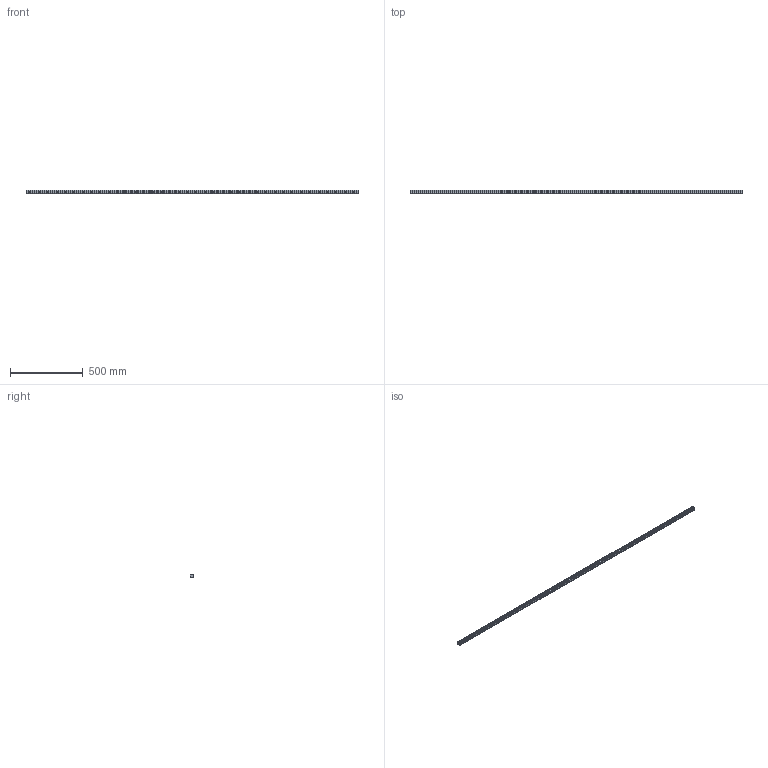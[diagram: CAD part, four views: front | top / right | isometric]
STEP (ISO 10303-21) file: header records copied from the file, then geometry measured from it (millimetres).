
FILE_DESCRIPTION (( 'STEP AP203' ), '1' );
FILE_NAME ('L1018.25R-2280.step', '2023-08-06T10:41:21', ( '' ), ( '' ), 'SwSTEP 2.0', 'SolidWorks 2019', '' );
FILE_SCHEMA (( 'CONFIG_CONTROL_DESIGN' ));
Length unit declared in the file: millimetre
Products named in the file (1): L1018.25R-2280
Bounding box: 2280 x 21.8 x 25 mm (x, y, z)
Volume: 948224.9 mm3; surface area: 227249.1 mm2
Topology: 1 solids, 1 shells, 371 faces, 841 edges, 472 vertices
Faces by surface type: cylinder 155, cone 152, plane 64
Entity records: 9890 total; most frequent: DIRECTION 1895, CARTESIAN_POINT 1609, ORIENTED_EDGE 1530, EDGE_CURVE 765, AXIS2_PLACEMENT_3D 758, VERTEX_POINT 472, EDGE_LOOP 447, CIRCLE 386
